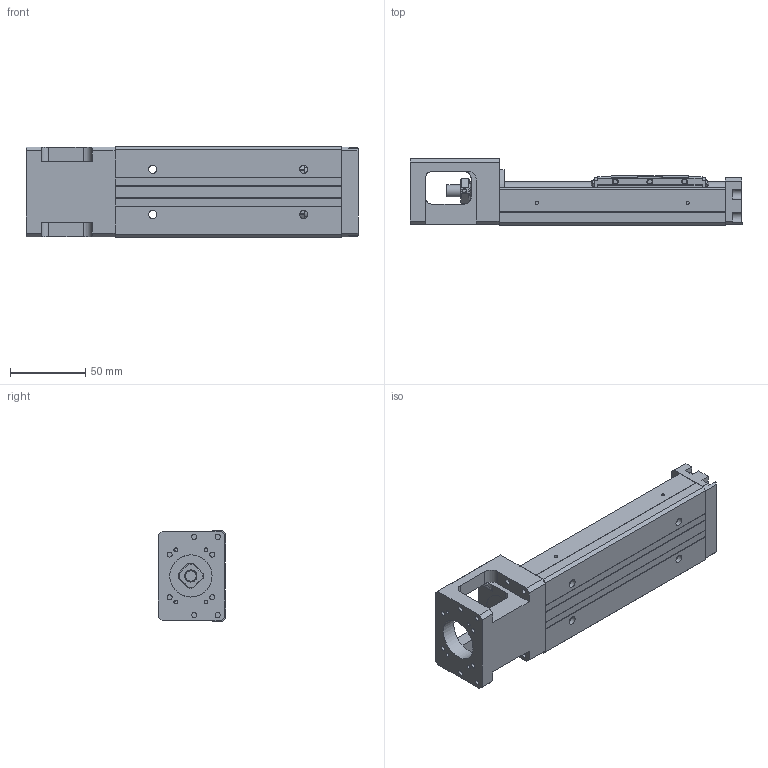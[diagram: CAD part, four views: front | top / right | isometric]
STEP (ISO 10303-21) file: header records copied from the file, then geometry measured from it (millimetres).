
FILE_DESCRIPTION(/* description */ (''),/* implementation_level */ '2;1');
FILE_NAME(/* name */ 'KP33N-150C02-D.stp',/* time_stamp */ '2020-07-01T11:22:11+08:00',/* author */ (''),/* organization */ (''),/* preprocessor_version */ 'ST-DEVELOPER v14',/* originating_system */ 'SIEMENS PLM Software NX 8.0',/* authorisation */ '');
FILE_SCHEMA (('AUTOMOTIVE_DESIGN { 1 0 10303 214 3 1 1 1 }'));
Length unit declared in the file: millimetre
Products named in the file (1): model1
Bounding box: 220 x 44.45 x 60 mm (x, y, z)
Volume: 303290.2 mm3; surface area: 85427.6 mm2
Topology: 5 solids, 10 shells, 593 faces, 1533 edges, 1010 vertices
Faces by surface type: plane 354, cylinder 156, bspline 31, cone 22, extrusion 21, torus 7, sphere 2
Full cylindrical faces by diameter (mm): 1.6 x2, 1.65 x4, 2.15 x2, 2.42 x4, 2.45 x2, 2.5 x4, 3 x3, 3.2 x4, 3.3 x4, 3.4 x3, 3.5 x10, 3.969 x1, 4 x6, 4.001 x1, 4.135 x4, 5.5 x4, 6 x4, 7.6 x1, 8 x5, 9.5 x4, 10.72 x3, 11.8 x2, 12 x1, 12.8 x1, 13 x2, 14 x1, 16 x4, 21.5 x1, 28 x1
Entity records: 28636 total; most frequent: CARTESIAN_POINT 14841, DIRECTION 2749, ORIENTED_EDGE 2710, EDGE_CURVE 1355, AXIS2_PLACEMENT_3D 952, VERTEX_POINT 948, VECTOR 845, EDGE_LOOP 825
